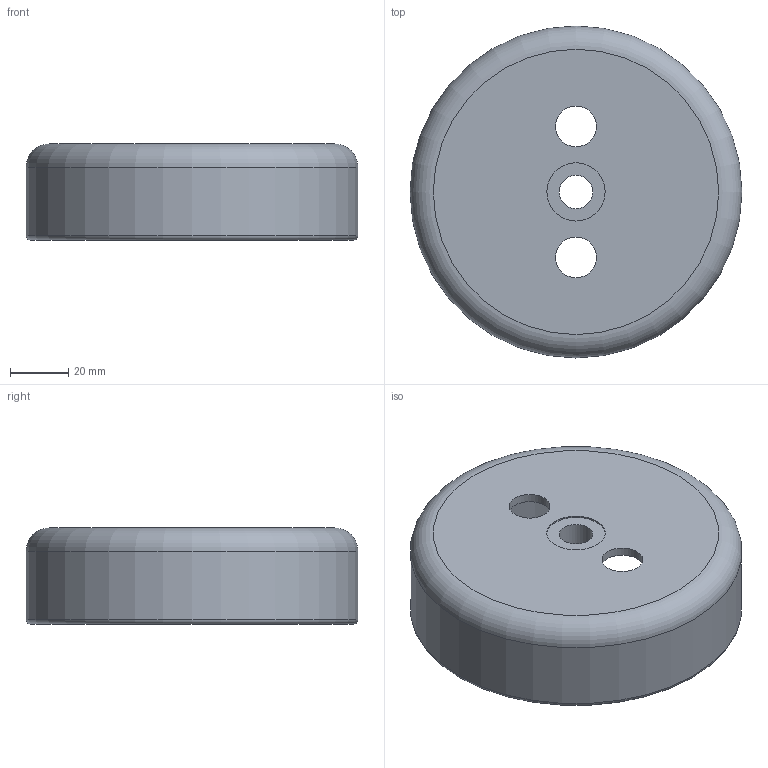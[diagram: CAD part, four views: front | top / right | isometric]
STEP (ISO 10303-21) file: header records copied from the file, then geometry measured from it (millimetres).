
FILE_DESCRIPTION(('Open CASCADE Model'),'2;1');
FILE_NAME('Open CASCADE Shape Model','2026-10-31T13:08:50',('Author'),( 'Open CASCADE'),'Open CASCADE STEP processor 7.9','Open CASCADE 7.9' ,'Unknown');
FILE_SCHEMA(('AUTOMOTIVE_DESIGN { 1 0 10303 214 1 1 1 1 }'));
Length unit declared in the file: millimetre
Products named in the file (1): Open CASCADE STEP translator 7.9 3
Bounding box: 114 x 114 x 33 mm (x, y, z)
Volume: 58421 mm3; surface area: 40165.1 mm2
Topology: 1 solids, 1 shells, 15 faces, 28 edges, 17 vertices
Faces by surface type: cylinder 7, torus 4, plane 4
Full cylindrical faces by diameter (mm): 11.5 x1, 14 x2, 17.5 x1, 20 x1, 108 x1, 114 x1
Entity records: 785 total; most frequent: CARTESIAN_POINT 155, DIRECTION 129, ORIENTED_EDGE 56, PCURVE 56, DEFINITIONAL_REPRESENTATION 56, LINE 49, VECTOR 49, AXIS2_PLACEMENT_3D 37
